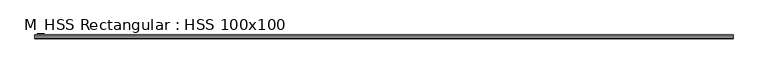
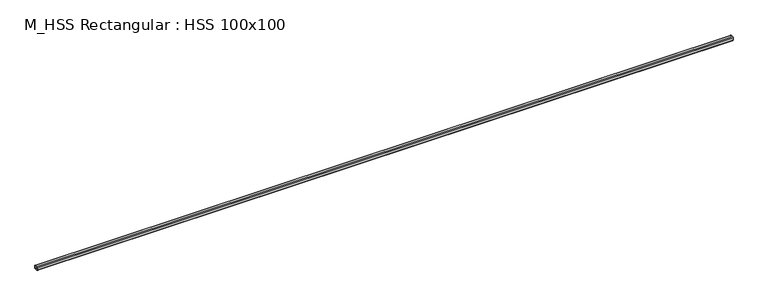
"""IFC4 building model written with IfcOpenShell, lengths in millimetres: beam geometry, M_HSS Rectangular : HSS 100x100."""

from ifc_helpers import new_model, si_unit, point, frame, frame_2d, origin, place, context, project, spatial, polyline, circle_curve, trimmed, segment, composite_curve, outline, extrude, source, transform, mapped, element, save


def m_hss_rectangular_hss_100x100_d88e7f3c(model_context):
    return source(origin(), model_context, "Body", "SweptSolid", [
        extrude(outline(composite_curve([segment(polyline([(50.0, 30.94), (50.0, -30.94)]), True, "CONTINUOUS"), segment(trimmed(circle_curve(frame_2d((30.94, -30.94)), 19.06), [point((50.0, -30.94))], [point((30.94, -50.0))], False, "CARTESIAN"), True, "CONTINUOUS"), segment(polyline([(30.94, -50.0), (-30.94, -50.0)]), True, "CONTINUOUS"), segment(trimmed(circle_curve(frame_2d((-30.94, -30.94)), 19.06), [point((-30.94, -50.0))], [point((-50.0, -30.94))], False, "CARTESIAN"), True, "CONTINUOUS"), segment(polyline([(-50.0, -30.94), (-50.0, 30.94)]), True, "CONTINUOUS"), segment(trimmed(circle_curve(frame_2d((-30.94, 30.94)), 19.06), [point((-50.0, 30.94))], [point((-30.94, 50.0))], False, "CARTESIAN"), True, "CONTINUOUS"), segment(polyline([(-30.94, 50.0), (30.94, 50.0)]), True, "CONTINUOUS"), segment(trimmed(circle_curve(frame_2d((30.94, 30.94)), 19.06), [point((30.94, 50.0))], [point((50.0, 30.94))], False, "CARTESIAN"), True, "CONTINUOUS")], self_intersect=False), holes=[composite_curve([segment(trimmed(circle_curve(frame_2d((-30.94, 30.94)), 9.53), [point((-30.94, 40.47))], [point((-40.47, 30.94))], True, "CARTESIAN"), True, "CONTINUOUS"), segment(polyline([(-40.47, 30.94), (-40.47, -30.94)]), True, "CONTINUOUS"), segment(trimmed(circle_curve(frame_2d((-30.94, -30.94)), 9.53), [point((-40.47, -30.94))], [point((-30.94, -40.47))], True, "CARTESIAN"), True, "CONTINUOUS"), segment(polyline([(-30.94, -40.47), (30.94, -40.47)]), True, "CONTINUOUS"), segment(trimmed(circle_curve(frame_2d((30.94, -30.94)), 9.53), [point((30.94, -40.47))], [point((40.47, -30.94))], True, "CARTESIAN"), True, "CONTINUOUS"), segment(polyline([(40.47, -30.94), (40.47, 30.94)]), True, "CONTINUOUS"), segment(trimmed(circle_curve(frame_2d((30.94, 30.94)), 9.53), [point((40.47, 30.94))], [point((30.94, 40.47))], True, "CARTESIAN"), True, "CONTINUOUS"), segment(polyline([(30.94, 40.47), (-30.94, 40.47)]), True, "CONTINUOUS")], self_intersect=False)]), frame((-8899.3, 0.0, 0.0), z_axis=(1.0, 0.0, 0.0), x_axis=(0.0, 1.0, 0.0)), (0.0, 0.0, 1.0), 17811.3),
    ])


if __name__ == "__main__":
    model = new_model("IFC4")
    model_context = context("Model", 3, world=origin())
    ifc_project = project(units=[si_unit("LENGTHUNIT", "METRE", prefix="MILLI")], contexts=[model_context])
    site = spatial("IfcSite", under=ifc_project)
    building = spatial("IfcBuilding", under=site)
    placement = place(None, origin())
    m_hss_rectangular_hss_100x100_shape = m_hss_rectangular_hss_100x100_d88e7f3c(model_context)
    element("IfcBeam", 1, ObjectType="M_HSS Rectangular : HSS 100x100", at=placement, inside=building, context=model_context, shape_type="MappedRepresentation", body=[
        mapped(m_hss_rectangular_hss_100x100_shape, transform((0.0, 0.0, 0.0), x_axis=(1.0, 0.0, 0.0), y_axis=(0.0, 1.0, 0.0), z_axis=(0.0, 0.0, 1.0))),
    ])
    save(model, "model.ifc")
